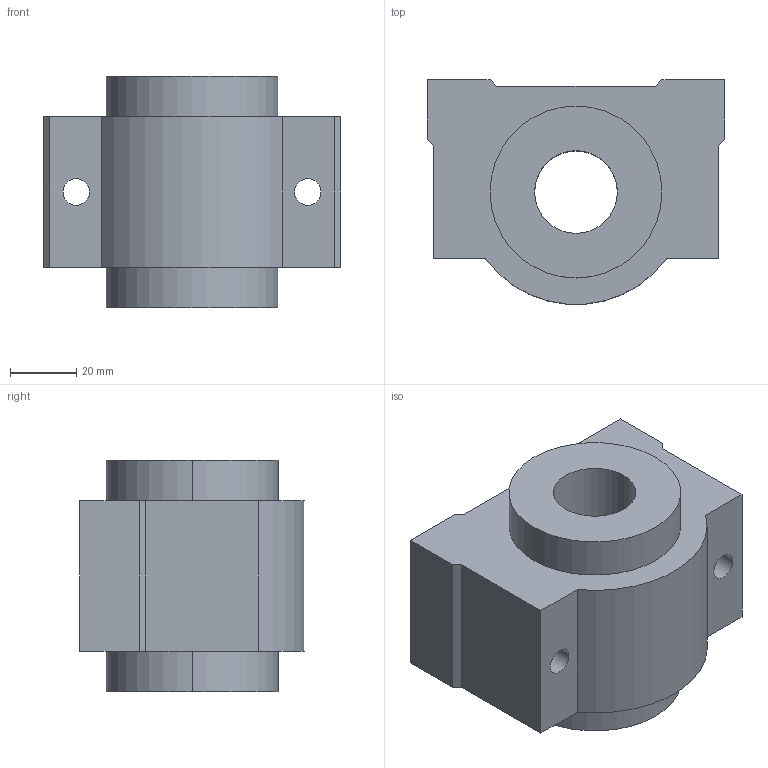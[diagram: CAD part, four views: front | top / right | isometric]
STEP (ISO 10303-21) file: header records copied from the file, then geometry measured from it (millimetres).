
FILE_DESCRIPTION((''),'2;1');
FILE_NAME('C:\Documents and Settings\ｿﾀﾀ蠑ｷ1\ｹﾙﾅﾁ ﾈｭｸ饅\ｺﾎﾇｰﾆﾄﾀﾏ\ﾁｦﾇｰ\SC__VUU\SC35VUU.stp','2005-06-22T14:24:32',('ｿﾀﾀ蠑ｷ1'),(''),'Autodesk Inventor 9','Autodesk Inventor 9','');
FILE_SCHEMA(('AUTOMOTIVE_DESIGN { 1 0 10303 214 1 1 1 1 }'));
Length unit declared in the file: millimetre
Products named in the file (1): SC__VUUN
Bounding box: 90 x 67.88 x 70 mm (x, y, z)
Volume: 246670.5 mm3; surface area: 34820.9 mm2
Topology: 1 solids, 1 shells, 28 faces, 72 edges, 48 vertices
Faces by surface type: plane 17, cylinder 7, bspline 4
Entity records: 945 total; most frequent: CARTESIAN_POINT 217, DIRECTION 144, ORIENTED_EDGE 144, EDGE_CURVE 72, VECTOR 50, LINE 50, VERTEX_POINT 48, AXIS2_PLACEMENT_3D 47
